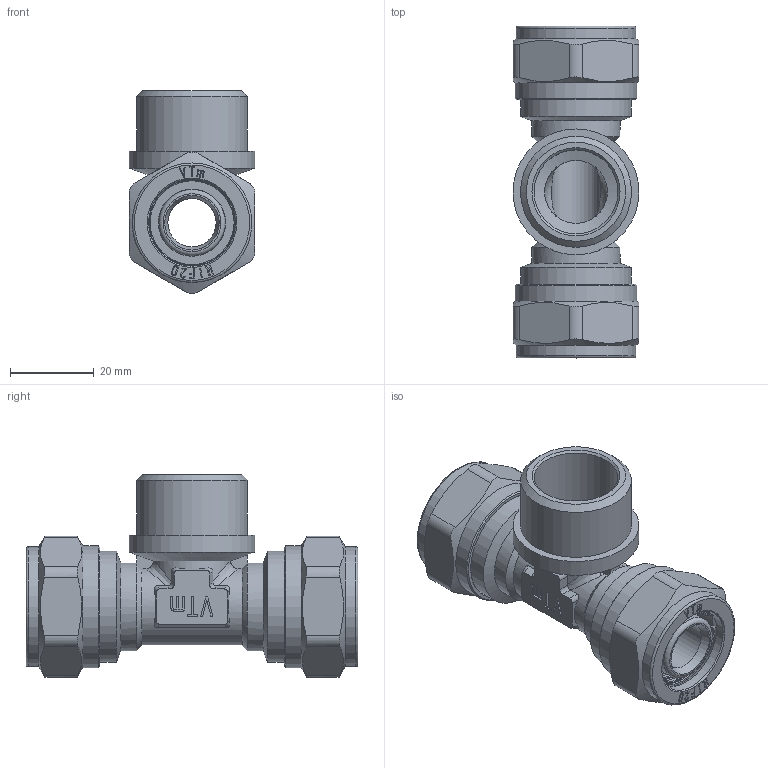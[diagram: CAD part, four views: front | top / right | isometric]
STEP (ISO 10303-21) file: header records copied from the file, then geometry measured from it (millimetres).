
FILE_DESCRIPTION(('STEP AP203'), '1');
FILE_NAME('VTm.333.N.200520', '', ('UNSPECIFIED'), ('UNSPECIFIED'), 'C3D Converter', 'C3D Toolkit', '');
FILE_SCHEMA(('CONFIG_CONTROL_DESIGN'));
Length unit declared in the file: millimetre
Products named in the file (1): ВР.302635.079.000 СБ
Bounding box: 30 x 79.06 x 48.35 mm (x, y, z)
Volume: 32192.1 mm3; surface area: 22468.5 mm2
Topology: 1 solids, 1 shells, 750 faces, 2059 edges, 1358 vertices
Faces by surface type: extrusion 312, plane 264, cylinder 82, torus 54, cone 28, bspline 8, sphere 2
Full cylindrical faces by diameter (mm): 11.5 x1, 15 x1, 15.8 x8, 15.9 x2, 20 x1, 20.1 x2, 20.2 x2, 20.7 x2, 21 x2, 24.118 x2, 26.441 x3, 28.5 x2, 29 x2, 30 x1
Entity records: 27741 total; most frequent: CARTESIAN_POINT 10560, ORIENTED_EDGE 3960, DIRECTION 2496, EDGE_CURVE 1980, VERTEX_POINT 1358, VECTOR 1210, B_SPLINE_CURVE_WITH_KNOTS 1120, LINE 898
